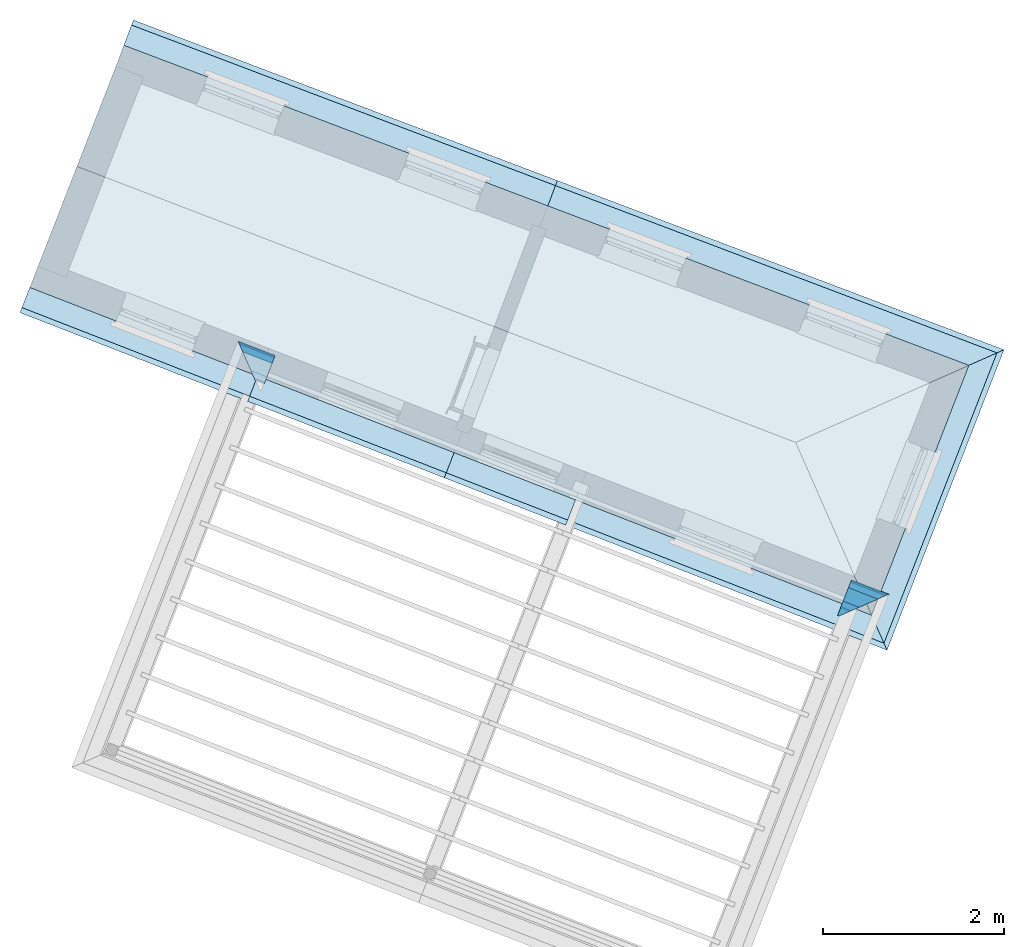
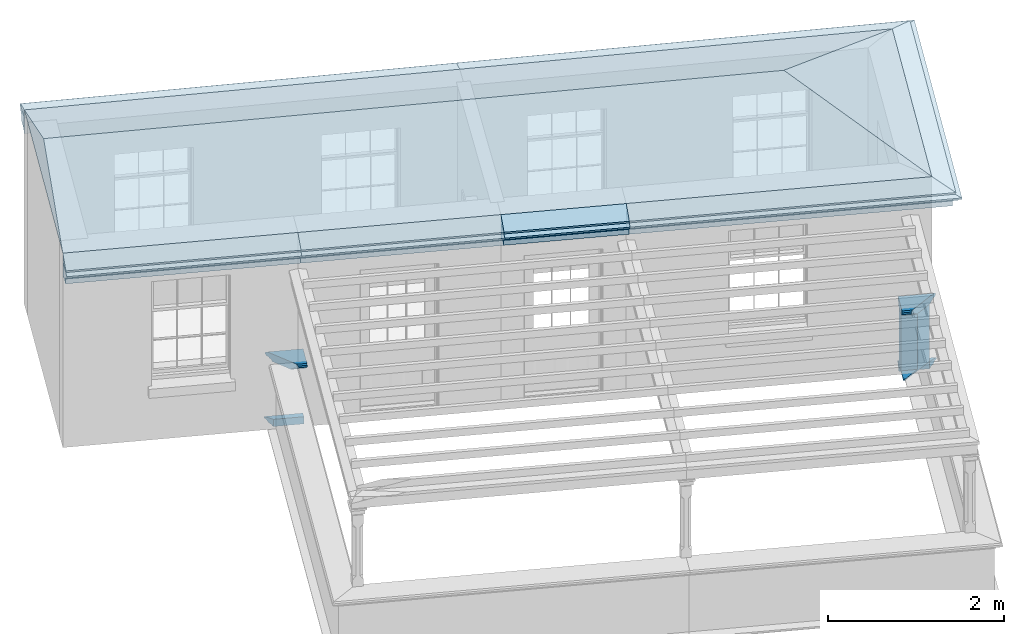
# One storey, part 5 of 5: 15 roofs, 5 walls.
"""IFC4 building model written with IfcOpenShell, lengths in metres."""

import ifcopenshell
import ifcopenshell.guid

model = None  # the IFC model being written
_history = None  # IfcOwnerHistory: only IFC2X3 demands one
_inside = {}  # id of a spatial element -> (the spatial element, [elements in it])
_under = {}  # id of a project, library or spatial element -> (it, [spatial elements below it])
_declared = {}  # id of a project -> (the project, [libraries it declares])
_typed = {}  # id of a type object -> (the type object, [elements of that type])
_made_of = {}  # id of a material, layer set ... -> (it, [elements and type objects made of it])


def new_model(schema):
    """Start an empty IFC model of exactly this schema.

    Asked for "IFC4X3", IfcOpenShell would pick the latest addendum, in which some entities
    have other attributes; the version numbers below select the first issue.
    IFC2X3 requires an IfcOwnerHistory on every rooted entity: one is made here for all.
    """
    global model, _history
    if schema == "IFC4X3":
        model = ifcopenshell.file(schema_version=(4, 3, 0, 0))
    else:
        model = ifcopenshell.file(schema=schema)
    _inside.clear()
    _under.clear()
    _declared.clear()
    _typed.clear()
    _made_of.clear()
    _history = None
    if model.schema == "IFC2X3":
        org = make("IfcOrganization", Name="unknown")
        user = make(
            "IfcPersonAndOrganization",
            ThePerson=make("IfcPerson", FamilyName="unknown"),
            TheOrganization=org,
        )
        app = make(
            "IfcApplication",
            ApplicationDeveloper=org,
            Version="unknown",
            ApplicationFullName="unknown",
            ApplicationIdentifier="unknown",
        )
        _history = make(
            "IfcOwnerHistory",
            OwningUser=user,
            OwningApplication=app,
            ChangeAction="ADDED",
            CreationDate=0,
        )
    return model


def make(cls, **values):
    """One entity of the class cls with the attributes given. An attribute that is None is left unset."""
    return model.create_entity(
        cls, **{name: value for name, value in values.items() if value is not None}
    )


def rooted(cls, **values):
    """An entity with a GlobalId (a new one), such as an element, a storey or a relation."""
    return make(cls, GlobalId=ifcopenshell.guid.new(), OwnerHistory=_history, **values)


def si_unit(unit_type, name, prefix=None):
    """IfcSIUnit, for example si_unit("LENGTHUNIT", "METRE", prefix="MILLI")."""
    return make("IfcSIUnit", UnitType=unit_type, Prefix=prefix, Name=name)


def assignment(units):
    """IfcUnitAssignment: the units of a project."""
    return None if units is None else make("IfcUnitAssignment", Units=units)


def point(xyz):
    """IfcCartesianPoint."""
    return None if xyz is None else make("IfcCartesianPoint", Coordinates=xyz)


def direction(xyz):
    """IfcDirection."""
    return None if xyz is None else make("IfcDirection", DirectionRatios=xyz)


def frame(location, z_axis=None, x_axis=None):
    """IfcAxis2Placement3D, a coordinate frame: its origin and axes. An axis left out is left unset."""
    return make(
        "IfcAxis2Placement3D",
        Location=point(location),
        Axis=direction(z_axis),
        RefDirection=direction(x_axis),
    )


def origin():
    """The frame at (0, 0, 0) with its axes left unset."""
    return frame((0.0, 0.0, 0.0))


def origin_with_axes():
    """The frame at (0, 0, 0) with the z axis (0, 0, 1) and the x axis (1, 0, 0) written out."""
    return frame((0.0, 0.0, 0.0), z_axis=(0.0, 0.0, 1.0), x_axis=(1.0, 0.0, 0.0))


def place(relative_to, where):
    """IfcLocalPlacement: puts the frame where relative to a parent placement (None: the world)."""
    return make(
        "IfcLocalPlacement", PlacementRelTo=relative_to, RelativePlacement=where
    )


def context(
    kind, dimensions, precision=None, world=None, true_north=None, identifier=None
):
    """IfcGeometricRepresentationContext, for example the 3D "Model" context."""
    return make(
        "IfcGeometricRepresentationContext",
        ContextIdentifier=identifier,
        ContextType=kind,
        CoordinateSpaceDimension=dimensions,
        Precision=precision,
        WorldCoordinateSystem=world,
        TrueNorth=true_north,
    )


def subcontext(parent, identifier, kind, view, scale=None):
    """IfcGeometricRepresentationSubContext, for example "Body" below "Model"."""
    return make(
        "IfcGeometricRepresentationSubContext",
        ContextIdentifier=identifier,
        ContextType=kind,
        ParentContext=parent,
        TargetScale=scale,
        TargetView=view,
    )


def project(units=None, contexts=None):
    """IfcProject with its units and contexts."""
    return rooted(
        "IfcProject",
        Name="project",
        RepresentationContexts=contexts,
        UnitsInContext=assignment(units),
    )


def spatial(cls, under=None, at=None, **own):
    """A site, building, storey or space (cls), placed at a placement, below another one or the project."""
    s = rooted(cls, ObjectPlacement=at, **own)
    if under is not None:
        _under.setdefault(under.id(), (under, []))[1].append(s)
    return s


def polyline(points):
    """IfcPolyline through the points."""
    return make("IfcPolyline", Points=[point(p) for p in points])


def outline(outer, holes=None, kind="AREA"):
    """IfcArbitraryClosedProfileDef: a profile drawn as a closed curve; with holes, ...WithVoids."""
    if holes is None:
        return make("IfcArbitraryClosedProfileDef", ProfileType=kind, OuterCurve=outer)
    return make(
        "IfcArbitraryProfileDefWithVoids",
        ProfileType=kind,
        OuterCurve=outer,
        InnerCurves=holes,
    )


def extrude(swept, where, along, depth):
    """IfcExtrudedAreaSolid: the profile swept, set in the frame where, extruded along a direction by depth."""
    return make(
        "IfcExtrudedAreaSolid",
        SweptArea=swept,
        Position=where,
        ExtrudedDirection=direction(along),
        Depth=depth,
    )


def clip(a, b, op="DIFFERENCE"):
    """IfcBooleanClippingResult: the solid a cut by the half space b."""
    return make(
        "IfcBooleanClippingResult", Operator=op, FirstOperand=a, SecondOperand=b
    )


def halfspace(plane, agree):
    """IfcHalfSpaceSolid: all space on one side of the plane z = 0 of the frame plane."""
    return make(
        "IfcHalfSpaceSolid",
        BaseSurface=make("IfcPlane", Position=plane),
        AgreementFlag=agree,
    )


def faces_of(points, faces, orient=None, outer=None):
    """IfcFace entities. A face is a list of loops; a loop is a list of indices into points, from 0.

    orient and outer hold one flag for each loop. By default every Orientation is true, the
    first loop of a face is its IfcFaceOuterBound and the others are IfcFaceBound.
    """
    made = []
    for i, loops in enumerate(faces):
        bounds = []
        for j, loop in enumerate(loops):
            is_outer = j == 0 if outer is None else outer[i][j]
            bounds.append(
                make(
                    "IfcFaceOuterBound" if is_outer else "IfcFaceBound",
                    Bound=make("IfcPolyLoop", Polygon=[points[k] for k in loop]),
                    Orientation=True if orient is None else orient[i][j],
                )
            )
        made.append(make("IfcFace", Bounds=bounds))
    return made


def faceted_brep(points, faces, orient=None, outer=None, voids=None):
    """IfcFacetedBrep: a solid bounded by flat faces; with voids (closed shells), ...WithVoids."""
    shared = [point(p) for p in points]
    hull = make("IfcClosedShell", CfsFaces=faces_of(shared, faces, orient, outer))
    if voids is None:
        return make("IfcFacetedBrep", Outer=hull)
    return make(
        "IfcFacetedBrepWithVoids",
        Outer=hull,
        Voids=[
            make(cls, CfsFaces=faces_of(shared, fs, o, b)) for cls, fs, o, b in voids
        ],
    )


def shape(context_of_items, identifier, shape_type, items):
    """IfcShapeRepresentation: the items that make up one representation, for example the "Body"."""
    return make(
        "IfcShapeRepresentation",
        ContextOfItems=context_of_items,
        RepresentationIdentifier=identifier,
        RepresentationType=shape_type,
        Items=items,
    )


def material_profile(
    of_material, cross_section, Name=None, Category=None, Priority=None
):
    """IfcMaterialProfile: a cross section and its material."""
    return make(
        "IfcMaterialProfile",
        Name=Name,
        Material=of_material,
        Profile=cross_section,
        Priority=Priority,
        Category=Category,
    )


def profile_set(profiles, Name=None, composite=None):
    """IfcMaterialProfileSet."""
    return make(
        "IfcMaterialProfileSet",
        Name=Name,
        MaterialProfiles=profiles,
        CompositeProfile=composite,
    )


def profile_usage(for_profile_set, cardinal=None, extent=None):
    """IfcMaterialProfileSetUsage: how a profile set lies along its element."""
    return make(
        "IfcMaterialProfileSetUsage",
        ForProfileSet=for_profile_set,
        CardinalPoint=cardinal,
        ReferenceExtent=extent,
    )


def made_of(thing, what):
    """Note that an element or type object is made of a material, layer set ...; save() writes the relation."""
    if what is not None:
        _made_of.setdefault(what.id(), (what, []))[1].append(thing)
    return thing


def type_object(cls, material=None, **own):
    """A type object (cls), such as IfcWallType, which elements share."""
    return made_of(rooted(cls, **own), material)


def element(
    cls,
    number,
    at=None,
    inside=None,
    cuts=None,
    type_object=None,
    material=None,
    context=None,
    identifier="Body",
    shape_type=None,
    held_by="IfcProductDefinitionShape",
    body=None,
    shapes=None,
    **own,
):
    """One element of the class cls, such as IfcWall. Its Tag is "e" and its number.

    at: its placement. inside: the storey or other place that contains it. cuts: it is an
    opening in that element (IfcRelVoidsElement). A single representation is given by context,
    identifier, shape_type and body (its items); several are given by shapes. held_by: the class
    of the entity that holds the representations. save() writes the other relations.
    """
    e = rooted(cls, Tag="e%d" % number, ObjectPlacement=at, **own)
    if body is not None:
        shapes = [shape(context, identifier, shape_type, body)]
    if shapes is not None:
        e.Representation = make(held_by, Representations=shapes)
    if inside is not None:
        _inside.setdefault(inside.id(), (inside, []))[1].append(e)
    if cuts is not None:
        rooted(
            "IfcRelVoidsElement", RelatingBuildingElement=cuts, RelatedOpeningElement=e
        )
    if type_object is not None:
        _typed.setdefault(type_object.id(), (type_object, []))[1].append(e)
    return made_of(e, material)


def aggregate(whole, parts):
    """IfcRelAggregates: a whole, such as a stair, and the parts it consists of."""
    return rooted("IfcRelAggregates", RelatingObject=whole, RelatedObjects=parts)


def save(model, path):
    """Write the relations noted so far, then the file.

    IfcRelAggregates (storeys below a building ...), IfcRelContainedInSpatialStructure (elements
    in a storey), IfcRelDefinesByType, IfcRelAssociatesMaterial and IfcRelDeclares: one each for
    every whole, place, type object, material and project.
    """
    for whole, parts in _under.values():
        aggregate(whole, parts)
    for where, things in _inside.values():
        rooted(
            "IfcRelContainedInSpatialStructure",
            RelatedElements=things,
            RelatingStructure=where,
        )
    for kind, things in _typed.values():
        rooted("IfcRelDefinesByType", RelatedObjects=things, RelatingType=kind)
    for what, things in _made_of.values():
        rooted("IfcRelAssociatesMaterial", RelatedObjects=things, RelatingMaterial=what)
    for by, libraries in _declared.values():
        rooted("IfcRelDeclares", RelatingContext=by, RelatedDefinitions=libraries)
    model.write(path)


model = new_model("IFC4")

# Units and contexts
model_context = context("Model", 3, world=origin_with_axes())
body_context = subcontext(model_context, "Body", "Model", "MODEL_VIEW")
ifc_project = project(units=[si_unit("PLANEANGLEUNIT", "RADIAN"), si_unit("MASSUNIT", "GRAM", prefix="KILO"), si_unit("FORCEUNIT", "NEWTON", prefix="KILO"), si_unit("LENGTHUNIT", "METRE"), si_unit("AREAUNIT", "SQUARE_METRE"), si_unit("VOLUMEUNIT", "CUBIC_METRE")], contexts=[model_context, model_context])

# Sites, building, storey
site_1_placement = place(None, origin_with_axes())
site_1 = spatial("IfcSite", under=ifc_project, at=site_1_placement, Name="Tamar")
site_2_placement = place(site_1_placement, origin_with_axes())
site_2 = spatial("IfcSite", under=site_1, at=site_2_placement, Name="Site plot-8", CompositionType="ELEMENT")
building_placement = place(None, origin_with_axes())
building = spatial("IfcBuilding", under=site_2, at=building_placement, Name="Building plot-8", CompositionType="ELEMENT")
storey_placement = place(None, frame((0.0, 0.0, 31.55), z_axis=(0.0, 0.0, 1.0), x_axis=(1.0, 0.0, 0.0)))
storey = spatial("IfcBuildingStorey", under=building, at=storey_placement, Name="plot-8 2", CompositionType="ELEMENT", Elevation=31.55)

# Walls
ifc_material_profile_1 = material_profile(None, outline(polyline([(0.25, 0.0), (0.25, 0.795), (0.09, 0.795), (0.09, 0.02), (-0.08, 0.02), (-0.08, 0.0), (0.25, 0.0)])))
ifc_profile_set_1 = profile_set([ifc_material_profile_1])
ifc_profile_usage_1 = profile_usage(ifc_profile_set_1)
wall_type_1 = type_object("IfcWallType", Name="parapet_0", PredefinedType="PARAPET", material=ifc_profile_set_1)
wall_1_placement = place(storey_placement, frame((229.407455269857, 306.878799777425, 0.0), z_axis=(0.931863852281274, -0.362808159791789, 0.0), x_axis=(0.362808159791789, 0.931863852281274, 0.0)))
element("IfcWall", 1, at=wall_1_placement, inside=storey, type_object=wall_type_1, material=ifc_profile_usage_1, Name="parapet_0", context=body_context, shape_type="Clipping", body=[
    clip(clip(extrude(outline(polyline([(0.25, 0.0), (0.25, 0.795), (0.09, 0.795), (0.09, 0.02), (-0.08, 0.02), (-0.08, 0.0), (0.25, 0.0)])), origin_with_axes(), (0.0, 0.0, 1.0), 2.10000000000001), halfspace(frame((0.0, 0.0, 1.10000000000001), z_axis=(0.707106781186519, 0.0, -0.707106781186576), x_axis=(0.0, 1.0, 0.0)), True)), halfspace(frame((0.0, 0.0, 1.0), z_axis=(1.41496223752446e-14, 0.0, -1.0), x_axis=(0.0, 1.0, 0.0)), False)),
])
ifc_material_profile_2 = material_profile(None, outline(polyline([(0.265, 0.795), (0.268, 0.807), (0.274, 0.816), (0.283, 0.822), (0.295, 0.825), (0.295, 0.84), (0.305, 0.84), (0.317, 0.842), (0.326, 0.849), (0.333, 0.858), (0.335, 0.87), (0.333, 0.882), (0.326, 0.891), (0.317, 0.898), (0.305, 0.9), (0.035, 0.9), (0.023, 0.898), (0.014, 0.891), (0.007, 0.882), (0.005, 0.87), (0.007, 0.858), (0.014, 0.849), (0.023, 0.842), (0.035, 0.84), (0.045, 0.84), (0.045, 0.825), (0.057, 0.822), (0.066, 0.816), (0.072, 0.807), (0.075, 0.795), (0.265, 0.795)])))
ifc_profile_set_2 = profile_set([ifc_material_profile_2])
ifc_profile_usage_2 = profile_usage(ifc_profile_set_2)
wall_type_2 = type_object("IfcWallType", Name="parapet_1", PredefinedType="PARAPET", material=ifc_profile_set_2)
wall_2_placement = place(storey_placement, frame((222.935647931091, 309.398507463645, 0.0), z_axis=(0.931863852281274, -0.362808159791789, 0.0), x_axis=(0.362808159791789, 0.931863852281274, 0.0)))
element("IfcWall", 2, at=wall_2_placement, inside=storey, type_object=wall_type_2, material=ifc_profile_usage_2, Name="parapet_1", context=body_context, shape_type="Clipping", body=[
    clip(clip(extrude(outline(polyline([(0.265, 0.795), (0.268, 0.807), (0.274, 0.816), (0.283, 0.822), (0.295, 0.825), (0.295, 0.84), (0.305, 0.84), (0.317, 0.842), (0.326, 0.849), (0.333, 0.858), (0.335, 0.87), (0.333, 0.882), (0.326, 0.891), (0.317, 0.898), (0.305, 0.9), (0.035, 0.9), (0.023, 0.898), (0.014, 0.891), (0.007, 0.882), (0.005, 0.87), (0.007, 0.858), (0.014, 0.849), (0.023, 0.842), (0.035, 0.84), (0.045, 0.84), (0.045, 0.825), (0.057, 0.822), (0.066, 0.816), (0.072, 0.807), (0.075, 0.795), (0.265, 0.795)])), origin_with_axes(), (0.0, 0.0, 1.0), 2.10000000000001), halfspace(frame((0.0, 0.0, 1.10000000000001), z_axis=(1.41496223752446e-14, 0.0, -1.0), x_axis=(0.0, 1.0, 0.0)), True)), halfspace(frame((0.0, 0.0, 1.0), z_axis=(-0.707106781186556, 0.0, -0.707106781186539), x_axis=(0.0, 1.0, 0.0)), False)),
])
ifc_profile_usage_3 = profile_usage(ifc_profile_set_2)
wall_3_placement = place(storey_placement, frame((229.407455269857, 306.878799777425, 0.0), z_axis=(0.931863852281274, -0.362808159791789, 0.0), x_axis=(0.362808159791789, 0.931863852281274, 0.0)))
element("IfcWall", 3, at=wall_3_placement, inside=storey, type_object=wall_type_2, material=ifc_profile_usage_3, Name="parapet_1", context=body_context, shape_type="Clipping", body=[
    clip(clip(extrude(outline(polyline([(0.265, 0.795), (0.268, 0.807), (0.274, 0.816), (0.283, 0.822), (0.295, 0.825), (0.295, 0.84), (0.305, 0.84), (0.317, 0.842), (0.326, 0.849), (0.333, 0.858), (0.335, 0.87), (0.333, 0.882), (0.326, 0.891), (0.317, 0.898), (0.305, 0.9), (0.035, 0.9), (0.023, 0.898), (0.014, 0.891), (0.007, 0.882), (0.005, 0.87), (0.007, 0.858), (0.014, 0.849), (0.023, 0.842), (0.035, 0.84), (0.045, 0.84), (0.045, 0.825), (0.057, 0.822), (0.066, 0.816), (0.072, 0.807), (0.075, 0.795), (0.265, 0.795)])), origin_with_axes(), (0.0, 0.0, 1.0), 2.10000000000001), halfspace(frame((0.0, 0.0, 1.10000000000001), z_axis=(0.707106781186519, 0.0, -0.707106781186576), x_axis=(0.0, 1.0, 0.0)), True)), halfspace(frame((0.0, 0.0, 1.0), z_axis=(1.41496223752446e-14, 0.0, -1.0), x_axis=(0.0, 1.0, 0.0)), False)),
])
ifc_material_profile_3 = material_profile(None, outline(polyline([(0.25, -0.1), (0.265, -0.1), (0.265, -0.085), (0.278, -0.084), (0.289, -0.081), (0.301, -0.074), (0.309, -0.065), (0.315, -0.055), (0.324, -0.044), (0.334, -0.038), (0.345, -0.035), (0.345, -0.015), (0.25, 0.0), (0.25, -0.1)])))
ifc_profile_set_3 = profile_set([ifc_material_profile_3])
ifc_profile_usage_4 = profile_usage(ifc_profile_set_3)
wall_type_3 = type_object("IfcWallType", Name="parapet_2", PredefinedType="PARAPET", material=ifc_profile_set_3)
wall_4_placement = place(storey_placement, frame((222.935647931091, 309.398507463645, 0.0), z_axis=(0.931863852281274, -0.362808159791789, 0.0), x_axis=(0.362808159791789, 0.931863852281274, 0.0)))
element("IfcWall", 4, at=wall_4_placement, inside=storey, type_object=wall_type_3, material=ifc_profile_usage_4, Name="parapet_2", context=body_context, shape_type="Clipping", body=[
    clip(clip(extrude(outline(polyline([(0.25, -0.1), (0.265, -0.1), (0.265, -0.085), (0.278, -0.084), (0.289, -0.081), (0.301, -0.074), (0.309, -0.065), (0.315, -0.055), (0.324, -0.044), (0.334, -0.038), (0.345, -0.035), (0.345, -0.015), (0.25, 0.0), (0.25, -0.1)])), origin_with_axes(), (0.0, 0.0, 1.0), 2.10000000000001), halfspace(frame((0.0, 0.0, 1.10000000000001), z_axis=(1.41496223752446e-14, 0.0, -1.0), x_axis=(0.0, 1.0, 0.0)), True)), halfspace(frame((0.0, 0.0, 1.0), z_axis=(-0.707106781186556, 0.0, -0.707106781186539), x_axis=(0.0, 1.0, 0.0)), False)),
])
ifc_profile_usage_5 = profile_usage(ifc_profile_set_3)
wall_5_placement = place(storey_placement, frame((229.407455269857, 306.878799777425, 0.0), z_axis=(0.931863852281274, -0.362808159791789, 0.0), x_axis=(0.362808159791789, 0.931863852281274, 0.0)))
element("IfcWall", 5, at=wall_5_placement, inside=storey, type_object=wall_type_3, material=ifc_profile_usage_5, Name="parapet_2", context=body_context, shape_type="Clipping", body=[
    clip(clip(extrude(outline(polyline([(0.25, -0.1), (0.265, -0.1), (0.265, -0.085), (0.278, -0.084), (0.289, -0.081), (0.301, -0.074), (0.309, -0.065), (0.315, -0.055), (0.324, -0.044), (0.334, -0.038), (0.345, -0.035), (0.345, -0.015), (0.25, 0.0), (0.25, -0.1)])), origin_with_axes(), (0.0, 0.0, 1.0), 2.10000000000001), halfspace(frame((0.0, 0.0, 1.10000000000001), z_axis=(0.707106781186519, 0.0, -0.707106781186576), x_axis=(0.0, 1.0, 0.0)), True)), halfspace(frame((0.0, 0.0, 1.0), z_axis=(1.41496223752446e-14, 0.0, -1.0), x_axis=(0.0, 1.0, 0.0)), False)),
])

# Roofs
ifc_material_profile_4 = material_profile(None, outline(polyline([(0.25, -0.11), (0.25, -0.33), (0.265, -0.33), (0.268, -0.318), (0.274, -0.309), (0.283, -0.303), (0.295, -0.3), (0.295, -0.285), (0.455, -0.285), (0.455, -0.205), (0.47, -0.205), (0.47, -0.19), (0.483, -0.189), (0.494, -0.186), (0.506, -0.179), (0.514, -0.17), (0.52, -0.16), (0.529, -0.149), (0.539, -0.143), (0.55, -0.14), (0.55, -0.12), (0.48, -0.11), (0.25, -0.11)])))
ifc_profile_set_4 = profile_set([ifc_material_profile_4])
ifc_profile_usage_6 = profile_usage(ifc_profile_set_4)
roof_type_1 = type_object("IfcRoofType", Name="eaves_0", PredefinedType="FREEFORM", material=ifc_profile_set_4)
roof_1_placement = place(storey_placement, frame((224.911846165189, 308.961768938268, 2.7), z_axis=(-0.931863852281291, 0.362808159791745, 0.0), x_axis=(-0.362808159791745, -0.931863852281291, 0.0)))
element("IfcRoof", 6, at=roof_1_placement, inside=storey, type_object=roof_type_1, material=ifc_profile_usage_6, Name="eaves_0", context=body_context, shape_type="Clipping", body=[
    clip(clip(extrude(outline(polyline([(0.25, -0.11), (0.25, -0.33), (0.265, -0.33), (0.268, -0.318), (0.274, -0.309), (0.283, -0.303), (0.295, -0.3), (0.295, -0.285), (0.455, -0.285), (0.455, -0.205), (0.47, -0.205), (0.47, -0.19), (0.483, -0.189), (0.494, -0.186), (0.506, -0.179), (0.514, -0.17), (0.52, -0.16), (0.529, -0.149), (0.539, -0.143), (0.55, -0.14), (0.55, -0.12), (0.48, -0.11), (0.25, -0.11)])), origin_with_axes(), (0.0, 0.0, 1.0), 4.70498617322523), halfspace(frame((0.0, 0.0, 3.70498617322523), z_axis=(-1.1607551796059e-14, 0.0, -1.0), x_axis=(0.0, 1.0, 0.0)), True)), halfspace(frame((0.0, 0.0, 1.0), z_axis=(-1.1607551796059e-14, 0.0, -1.0), x_axis=(0.0, 1.0, 0.0)), False)),
])
ifc_profile_usage_7 = profile_usage(ifc_profile_set_4)
roof_2_placement = place(storey_placement, frame((227.088438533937, 308.114343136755, 2.7), z_axis=(-0.931863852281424, 0.362808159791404, 0.0), x_axis=(-0.362808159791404, -0.931863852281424, 0.0)))
element("IfcRoof", 7, at=roof_2_placement, inside=storey, type_object=roof_type_1, material=ifc_profile_usage_7, Name="eaves_0", context=body_context, shape_type="Clipping", body=[
    clip(clip(extrude(outline(polyline([(0.25, -0.11), (0.25, -0.33), (0.265, -0.33), (0.268, -0.318), (0.274, -0.309), (0.283, -0.303), (0.295, -0.3), (0.295, -0.285), (0.455, -0.285), (0.455, -0.205), (0.47, -0.205), (0.47, -0.19), (0.483, -0.189), (0.494, -0.186), (0.506, -0.179), (0.514, -0.17), (0.52, -0.16), (0.529, -0.149), (0.539, -0.143), (0.55, -0.14), (0.55, -0.12), (0.48, -0.11), (0.25, -0.11)])), origin_with_axes(), (0.0, 0.0, 1.0), 4.3357407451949), halfspace(frame((0.0, 0.0, 3.3357407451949), z_axis=(3.54766046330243e-13, 0.0, -1.0), x_axis=(0.0, 1.0, 0.0)), True)), halfspace(frame((0.0, 0.0, 1.0), z_axis=(-4.05803522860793e-15, 0.0, -1.0), x_axis=(0.0, 1.0, 0.0)), False)),
])
ifc_profile_usage_8 = profile_usage(ifc_profile_set_4)
roof_3_placement = place(storey_placement, frame((228.432453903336, 307.591069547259, 2.7), z_axis=(-0.931863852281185, 0.362808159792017, 0.0), x_axis=(-0.362808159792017, -0.931863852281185, 0.0)))
element("IfcRoof", 8, at=roof_3_placement, inside=storey, type_object=roof_type_1, material=ifc_profile_usage_8, Name="eaves_0", context=body_context, shape_type="Clipping", body=[
    clip(clip(extrude(outline(polyline([(0.25, -0.11), (0.25, -0.33), (0.265, -0.33), (0.268, -0.318), (0.274, -0.309), (0.283, -0.303), (0.295, -0.3), (0.295, -0.285), (0.455, -0.285), (0.455, -0.205), (0.47, -0.205), (0.47, -0.19), (0.483, -0.189), (0.494, -0.186), (0.506, -0.179), (0.514, -0.17), (0.52, -0.16), (0.529, -0.149), (0.539, -0.143), (0.55, -0.14), (0.55, -0.12), (0.48, -0.11), (0.25, -0.11)])), origin_with_axes(), (0.0, 0.0, 1.0), 3.44228726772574), halfspace(frame((0.0, 0.0, 2.44228726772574), z_axis=(-6.62642333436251e-13, 0.0, -1.0), x_axis=(0.0, 1.0, 0.0)), True)), halfspace(frame((0.0, 0.0, 1.0), z_axis=(2.60330291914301e-15, 0.0, -1.0), x_axis=(0.0, 1.0, 0.0)), False)),
])
ifc_profile_usage_9 = profile_usage(ifc_profile_set_4)
roof_4_placement = place(storey_placement, frame((231.476839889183, 306.405780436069, 2.7), z_axis=(-0.931863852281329, 0.362808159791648, 0.0), x_axis=(-0.362808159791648, -0.931863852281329, 0.0)))
element("IfcRoof", 9, at=roof_4_placement, inside=storey, type_object=roof_type_1, material=ifc_profile_usage_9, Name="eaves_0", context=body_context, shape_type="Clipping", body=[
    clip(clip(extrude(outline(polyline([(0.25, -0.11), (0.25, -0.33), (0.265, -0.33), (0.268, -0.318), (0.274, -0.309), (0.283, -0.303), (0.295, -0.3), (0.295, -0.285), (0.455, -0.285), (0.455, -0.205), (0.47, -0.205), (0.47, -0.19), (0.483, -0.189), (0.494, -0.186), (0.506, -0.179), (0.514, -0.17), (0.52, -0.16), (0.529, -0.149), (0.539, -0.143), (0.55, -0.14), (0.55, -0.12), (0.48, -0.11), (0.25, -0.11)])), origin_with_axes(), (0.0, 0.0, 1.0), 5.26698581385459), halfspace(frame((0.0, 0.0, 4.26698581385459), z_axis=(3.98730878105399e-13, 0.0, -1.0), x_axis=(0.0, 1.0, 0.0)), True)), halfspace(frame((0.0, 0.0, 1.0), z_axis=(-0.707106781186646, 0.0, -0.707106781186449), x_axis=(0.0, 1.0, 0.0)), False)),
])
ifc_profile_usage_10 = profile_usage(ifc_profile_set_4)
roof_5_placement = place(storey_placement, frame((231.801947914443, 309.997090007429, 2.7), z_axis=(-0.362808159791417, -0.931863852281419, 0.0), x_axis=(0.931863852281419, -0.362808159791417, 0.0)))
element("IfcRoof", 10, at=roof_5_placement, inside=storey, type_object=roof_type_1, material=ifc_profile_usage_10, Name="eaves_0", context=body_context, shape_type="Clipping", body=[
    clip(clip(extrude(outline(polyline([(0.25, -0.11), (0.25, -0.33), (0.265, -0.33), (0.268, -0.318), (0.274, -0.309), (0.283, -0.303), (0.295, -0.3), (0.295, -0.285), (0.455, -0.285), (0.455, -0.205), (0.47, -0.205), (0.47, -0.19), (0.483, -0.189), (0.494, -0.186), (0.506, -0.179), (0.514, -0.17), (0.52, -0.16), (0.529, -0.149), (0.539, -0.143), (0.55, -0.14), (0.55, -0.12), (0.48, -0.11), (0.25, -0.11)])), origin_with_axes(), (0.0, 0.0, 1.0), 4.46456341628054), halfspace(frame((0.0, 0.0, 3.46456341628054), z_axis=(0.707106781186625, 0.0, -0.70710678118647), x_axis=(0.0, 1.0, 0.0)), True)), halfspace(frame((0.0, 0.0, 1.0), z_axis=(-0.710358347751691, 0.0, -0.703840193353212), x_axis=(0.0, 1.0, 0.0)), False)),
])
ifc_profile_usage_11 = profile_usage(ifc_profile_set_4)
roof_6_placement = place(storey_placement, frame((226.078948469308, 311.095442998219, 2.7), z_axis=(0.935168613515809, -0.354202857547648, 0.0), x_axis=(0.354202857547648, 0.935168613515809, 0.0)))
element("IfcRoof", 11, at=roof_6_placement, inside=storey, type_object=roof_type_1, material=ifc_profile_usage_11, Name="eaves_0", context=body_context, shape_type="Clipping", body=[
    clip(clip(extrude(outline(polyline([(0.25, -0.11), (0.25, -0.33), (0.265, -0.33), (0.268, -0.318), (0.274, -0.309), (0.283, -0.303), (0.295, -0.3), (0.295, -0.285), (0.455, -0.285), (0.455, -0.205), (0.47, -0.205), (0.47, -0.19), (0.483, -0.189), (0.494, -0.186), (0.506, -0.179), (0.514, -0.17), (0.52, -0.16), (0.529, -0.149), (0.539, -0.143), (0.55, -0.14), (0.55, -0.12), (0.48, -0.11), (0.25, -0.11)])), origin_with_axes(), (0.0, 0.0, 1.0), 6.73179125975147), halfspace(frame((0.0, 0.0, 5.73179125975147), z_axis=(0.710358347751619, 0.0, -0.703840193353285), x_axis=(0.0, 1.0, 0.0)), True)), halfspace(frame((0.0, 0.0, 1.0), z_axis=(-7.16665969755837e-15, 0.0, -1.0), x_axis=(0.0, 1.0, 0.0)), False)),
])
ifc_profile_usage_12 = profile_usage(ifc_profile_set_4)
roof_7_placement = place(storey_placement, frame((221.385699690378, 312.873049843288, 2.7), z_axis=(0.935168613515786, -0.35420285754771, 0.0), x_axis=(0.35420285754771, 0.935168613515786, 0.0)))
element("IfcRoof", 12, at=roof_7_placement, inside=storey, type_object=roof_type_1, material=ifc_profile_usage_12, Name="eaves_0", context=body_context, shape_type="Clipping", body=[
    clip(clip(extrude(outline(polyline([(0.25, -0.11), (0.25, -0.33), (0.265, -0.33), (0.268, -0.318), (0.274, -0.309), (0.283, -0.303), (0.295, -0.3), (0.295, -0.285), (0.455, -0.285), (0.455, -0.205), (0.47, -0.205), (0.47, -0.19), (0.483, -0.189), (0.494, -0.186), (0.506, -0.179), (0.514, -0.17), (0.52, -0.16), (0.529, -0.149), (0.539, -0.143), (0.55, -0.14), (0.55, -0.12), (0.48, -0.11), (0.25, -0.11)])), origin_with_axes(), (0.0, 0.0, 1.0), 7.01861237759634), halfspace(frame((0.0, 0.0, 6.01861237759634), z_axis=(-7.28918627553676e-14, 0.0, -1.0), x_axis=(0.0, 1.0, 0.0)), True)), halfspace(frame((0.0, 0.0, 1.0), z_axis=(-6.12323399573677e-17, 0.0, -1.0), x_axis=(0.0, 1.0, 0.0)), False)),
])
ifc_material_profile_5 = material_profile(None, outline(polyline([(0.25, -0.11), (0.48, -0.11), (0.49, -0.08), (0.25, 0.0), (0.25, -0.11)])))
ifc_profile_set_5 = profile_set([ifc_material_profile_5])
ifc_profile_usage_13 = profile_usage(ifc_profile_set_5)
roof_type_2 = type_object("IfcRoofType", Name="eaves_1", PredefinedType="FREEFORM", material=ifc_profile_set_5)
roof_8_placement = place(storey_placement, frame((224.911846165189, 308.961768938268, 2.7), z_axis=(-0.931863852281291, 0.362808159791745, 0.0), x_axis=(-0.362808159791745, -0.931863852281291, 0.0)))
element("IfcRoof", 13, at=roof_8_placement, inside=storey, type_object=roof_type_2, material=ifc_profile_usage_13, Name="eaves_1", context=body_context, shape_type="Clipping", body=[
    clip(clip(extrude(outline(polyline([(0.25, -0.11), (0.48, -0.11), (0.49, -0.08), (0.25, 0.0), (0.25, -0.11)])), origin_with_axes(), (0.0, 0.0, 1.0), 4.70498617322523), halfspace(frame((0.0, 0.0, 3.70498617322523), z_axis=(-1.1607551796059e-14, 0.0, -1.0), x_axis=(0.0, 1.0, 0.0)), True)), halfspace(frame((0.0, 0.0, 1.0), z_axis=(-1.1607551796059e-14, 0.0, -1.0), x_axis=(0.0, 1.0, 0.0)), False)),
])
ifc_profile_usage_14 = profile_usage(ifc_profile_set_5)
roof_9_placement = place(storey_placement, frame((227.088438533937, 308.114343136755, 2.7), z_axis=(-0.931863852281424, 0.362808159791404, 0.0), x_axis=(-0.362808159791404, -0.931863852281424, 0.0)))
element("IfcRoof", 14, at=roof_9_placement, inside=storey, type_object=roof_type_2, material=ifc_profile_usage_14, Name="eaves_1", context=body_context, shape_type="Clipping", body=[
    clip(clip(extrude(outline(polyline([(0.25, -0.11), (0.48, -0.11), (0.49, -0.08), (0.25, 0.0), (0.25, -0.11)])), origin_with_axes(), (0.0, 0.0, 1.0), 4.3357407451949), halfspace(frame((0.0, 0.0, 3.3357407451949), z_axis=(3.54766046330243e-13, 0.0, -1.0), x_axis=(0.0, 1.0, 0.0)), True)), halfspace(frame((0.0, 0.0, 1.0), z_axis=(-4.05803522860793e-15, 0.0, -1.0), x_axis=(0.0, 1.0, 0.0)), False)),
])
ifc_profile_usage_15 = profile_usage(ifc_profile_set_5)
roof_10_placement = place(storey_placement, frame((228.432453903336, 307.591069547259, 2.7), z_axis=(-0.931863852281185, 0.362808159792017, 0.0), x_axis=(-0.362808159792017, -0.931863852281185, 0.0)))
element("IfcRoof", 15, at=roof_10_placement, inside=storey, type_object=roof_type_2, material=ifc_profile_usage_15, Name="eaves_1", context=body_context, shape_type="Clipping", body=[
    clip(clip(extrude(outline(polyline([(0.25, -0.11), (0.48, -0.11), (0.49, -0.08), (0.25, 0.0), (0.25, -0.11)])), origin_with_axes(), (0.0, 0.0, 1.0), 3.44228726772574), halfspace(frame((0.0, 0.0, 2.44228726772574), z_axis=(-6.62642333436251e-13, 0.0, -1.0), x_axis=(0.0, 1.0, 0.0)), True)), halfspace(frame((0.0, 0.0, 1.0), z_axis=(2.60330291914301e-15, 0.0, -1.0), x_axis=(0.0, 1.0, 0.0)), False)),
])
ifc_profile_usage_16 = profile_usage(ifc_profile_set_5)
roof_11_placement = place(storey_placement, frame((231.476839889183, 306.405780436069, 2.7), z_axis=(-0.931863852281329, 0.362808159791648, 0.0), x_axis=(-0.362808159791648, -0.931863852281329, 0.0)))
element("IfcRoof", 16, at=roof_11_placement, inside=storey, type_object=roof_type_2, material=ifc_profile_usage_16, Name="eaves_1", context=body_context, shape_type="Clipping", body=[
    clip(clip(extrude(outline(polyline([(0.25, -0.11), (0.48, -0.11), (0.49, -0.08), (0.25, 0.0), (0.25, -0.11)])), origin_with_axes(), (0.0, 0.0, 1.0), 5.26698581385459), halfspace(frame((0.0, 0.0, 4.26698581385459), z_axis=(3.98730878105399e-13, 0.0, -1.0), x_axis=(0.0, 1.0, 0.0)), True)), halfspace(frame((0.0, 0.0, 1.0), z_axis=(-0.707106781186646, 0.0, -0.707106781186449), x_axis=(0.0, 1.0, 0.0)), False)),
])
ifc_profile_usage_17 = profile_usage(ifc_profile_set_5)
roof_12_placement = place(storey_placement, frame((231.801947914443, 309.997090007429, 2.7), z_axis=(-0.362808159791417, -0.931863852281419, 0.0), x_axis=(0.931863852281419, -0.362808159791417, 0.0)))
element("IfcRoof", 17, at=roof_12_placement, inside=storey, type_object=roof_type_2, material=ifc_profile_usage_17, Name="eaves_1", context=body_context, shape_type="Clipping", body=[
    clip(clip(extrude(outline(polyline([(0.25, -0.11), (0.48, -0.11), (0.49, -0.08), (0.25, 0.0), (0.25, -0.11)])), origin_with_axes(), (0.0, 0.0, 1.0), 4.46456341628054), halfspace(frame((0.0, 0.0, 3.46456341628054), z_axis=(0.707106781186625, 0.0, -0.70710678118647), x_axis=(0.0, 1.0, 0.0)), True)), halfspace(frame((0.0, 0.0, 1.0), z_axis=(-0.710358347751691, 0.0, -0.703840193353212), x_axis=(0.0, 1.0, 0.0)), False)),
])
ifc_profile_usage_18 = profile_usage(ifc_profile_set_5)
roof_13_placement = place(storey_placement, frame((226.078948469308, 311.095442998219, 2.7), z_axis=(0.935168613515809, -0.354202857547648, 0.0), x_axis=(0.354202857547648, 0.935168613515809, 0.0)))
element("IfcRoof", 18, at=roof_13_placement, inside=storey, type_object=roof_type_2, material=ifc_profile_usage_18, Name="eaves_1", context=body_context, shape_type="Clipping", body=[
    clip(clip(extrude(outline(polyline([(0.25, -0.11), (0.48, -0.11), (0.49, -0.08), (0.25, 0.0), (0.25, -0.11)])), origin_with_axes(), (0.0, 0.0, 1.0), 6.73179125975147), halfspace(frame((0.0, 0.0, 5.73179125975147), z_axis=(0.710358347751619, 0.0, -0.703840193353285), x_axis=(0.0, 1.0, 0.0)), True)), halfspace(frame((0.0, 0.0, 1.0), z_axis=(-7.16665969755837e-15, 0.0, -1.0), x_axis=(0.0, 1.0, 0.0)), False)),
])
ifc_profile_usage_19 = profile_usage(ifc_profile_set_5)
roof_14_placement = place(storey_placement, frame((221.385699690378, 312.873049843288, 2.7), z_axis=(0.935168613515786, -0.35420285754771, 0.0), x_axis=(0.35420285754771, 0.935168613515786, 0.0)))
element("IfcRoof", 19, at=roof_14_placement, inside=storey, type_object=roof_type_2, material=ifc_profile_usage_19, Name="eaves_1", context=body_context, shape_type="Clipping", body=[
    clip(clip(extrude(outline(polyline([(0.25, -0.11), (0.48, -0.11), (0.49, -0.08), (0.25, 0.0), (0.25, -0.11)])), origin_with_axes(), (0.0, 0.0, 1.0), 7.01861237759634), halfspace(frame((0.0, 0.0, 6.01861237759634), z_axis=(-7.28918627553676e-14, 0.0, -1.0), x_axis=(0.0, 1.0, 0.0)), True)), halfspace(frame((0.0, 0.0, 1.0), z_axis=(-6.12323399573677e-17, 0.0, -1.0), x_axis=(0.0, 1.0, 0.0)), False)),
])
roof_15_placement = place(building_placement, origin())
element("IfcRoof", 20, at=roof_15_placement, inside=storey, Name="Roof", PredefinedType="FREEFORM", context=body_context, shape_type="Brep", body=[
    faceted_brep([(231.763648, 309.209648, 34.25), (222.411564, 312.751827, 34.25), (221.890072, 311.412386, 34.845356), (229.846971, 308.356636, 34.861629), (221.368601, 310.073002, 34.25), (230.68724, 306.444921, 34.25)], [[[0, 1, 2, 3]], [[4, 5, 3, 2]], [[5, 4, 1, 0]], [[5, 0, 3]], [[1, 4, 2]]]),
])

save(model, "model.ifc")
